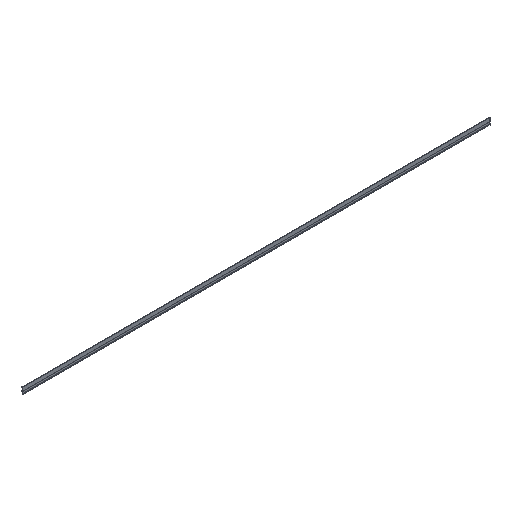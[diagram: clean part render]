
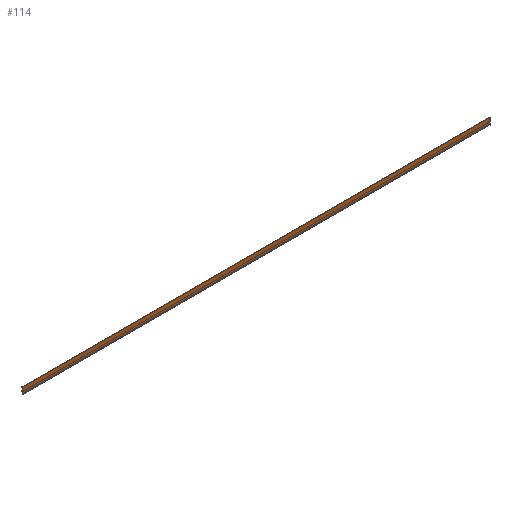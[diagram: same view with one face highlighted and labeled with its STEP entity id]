
A CAD part, isometric view. The second image highlights one B-rep face of the part: STEP entity #114.
In plain terms, the highlighted planar face has unit normal (0, -1, 0).
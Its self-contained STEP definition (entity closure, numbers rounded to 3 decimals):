
#114=ADVANCED_FACE('',(#278),#279,.T.);
#278=FACE_OUTER_BOUND('',#493,.T.);
#279=PLANE('',#494);
#493=EDGE_LOOP('',(#787,#788,#789,#790));
#494=AXIS2_PLACEMENT_3D('',#791,#792,#793);
#787=ORIENTED_EDGE('',*,*,#1376,.T.);
#788=ORIENTED_EDGE('',*,*,#1377,.F.);
#789=ORIENTED_EDGE('',*,*,#1348,.F.);
#790=ORIENTED_EDGE('',*,*,#1378,.T.);
#791=CARTESIAN_POINT('',(0.0,-11.5,0.0));
#792=DIRECTION('',(0.0,-1.0,0.0));
#793=DIRECTION('',(0.0,0.0,-1.0));
#1348=EDGE_CURVE('',#1623,#1625,#1626,.T.);
#1376=EDGE_CURVE('',#1674,#1675,#1676,.T.);
#1377=EDGE_CURVE('',#1625,#1675,#1677,.T.);
#1378=EDGE_CURVE('',#1623,#1674,#1678,.T.);
#1623=VERTEX_POINT('',#2027);
#1625=VERTEX_POINT('',#2030);
#1626=LINE('',#2031,#2032);
#1674=VERTEX_POINT('',#2104);
#1675=VERTEX_POINT('',#2105);
#1676=LINE('',#2106,#2107);
#1677=LINE('',#2108,#2109);
#1678=LINE('',#2110,#2111);
#2027=CARTESIAN_POINT('',(0.0,-11.5,-79.5));
#2030=CARTESIAN_POINT('',(0.0,-11.5,0.0));
#2031=CARTESIAN_POINT('',(0.0,-11.5,-61.0));
#2032=VECTOR('',#2483,1.0);
#2104=CARTESIAN_POINT('',(5800.0,-11.5,-79.5));
#2105=CARTESIAN_POINT('',(5800.0,-11.5,0.0));
#2106=CARTESIAN_POINT('',(5800.0,-11.5,-15.25));
#2107=VECTOR('',#2508,1.0);
#2108=CARTESIAN_POINT('',(0.0,-11.5,0.0));
#2109=VECTOR('',#2509,1.0);
#2110=CARTESIAN_POINT('',(0.0,-11.5,-79.5));
#2111=VECTOR('',#2510,1.0);
#2483=DIRECTION('',(0.0,0.0,1.0));
#2508=DIRECTION('',(0.0,0.0,1.0));
#2509=DIRECTION('',(1.0,0.0,0.0));
#2510=DIRECTION('',(1.0,0.0,0.0));
